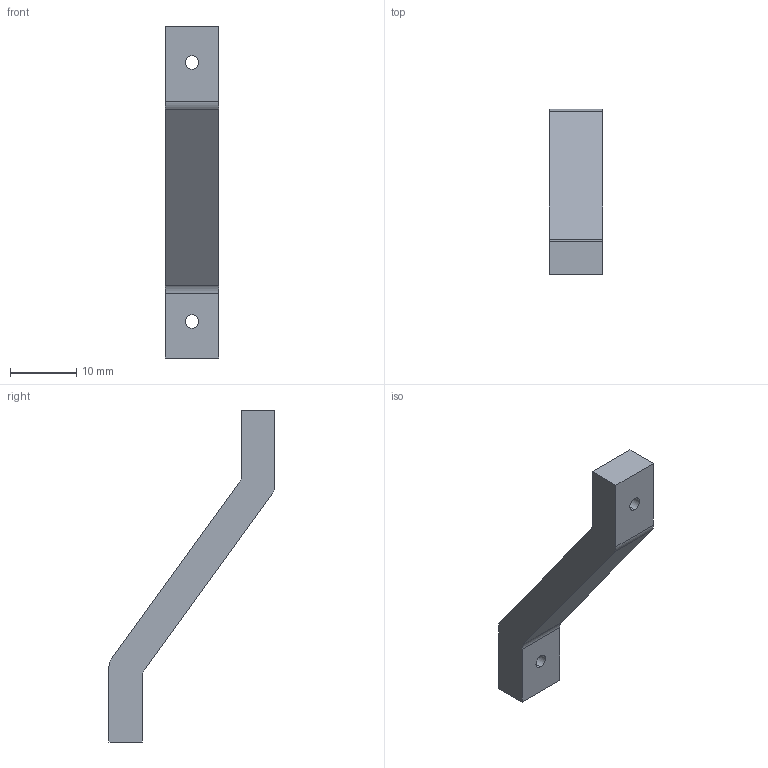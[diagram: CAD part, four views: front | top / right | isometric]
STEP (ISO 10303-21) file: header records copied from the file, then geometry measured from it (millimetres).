
FILE_DESCRIPTION (( 'STEP AP203' ), '1' );
FILE_NAME ('Spacer CR.STEP', '2016-02-23T16:42:05', ( '' ), ( '' ), 'SwSTEP 2.0', 'SolidWorks 2011', '' );
FILE_SCHEMA (( 'CONFIG_CONTROL_DESIGN' ));
Length unit declared in the file: millimetre
Products named in the file (1): Spacer CR
Bounding box: 8 x 25 x 50 mm (x, y, z)
Volume: 2226.2 mm3; surface area: 1598.3 mm2
Topology: 1 solids, 1 shells, 18 faces, 48 edges, 32 vertices
Faces by surface type: plane 10, cylinder 8
Entity records: 653 total; most frequent: DIRECTION 102, CARTESIAN_POINT 99, ORIENTED_EDGE 96, EDGE_CURVE 48, AXIS2_PLACEMENT_3D 35, LINE 32, VERTEX_POINT 32, VECTOR 32
